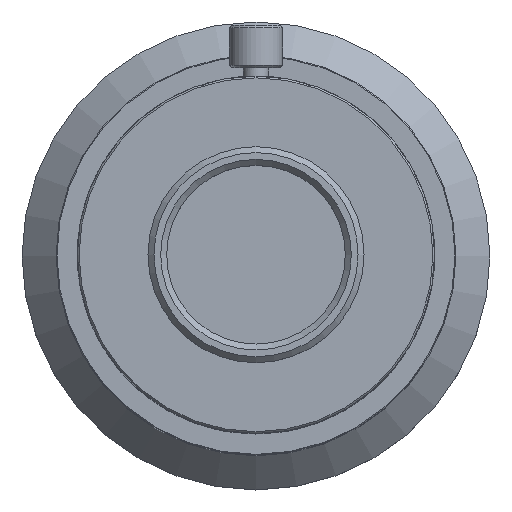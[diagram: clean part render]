
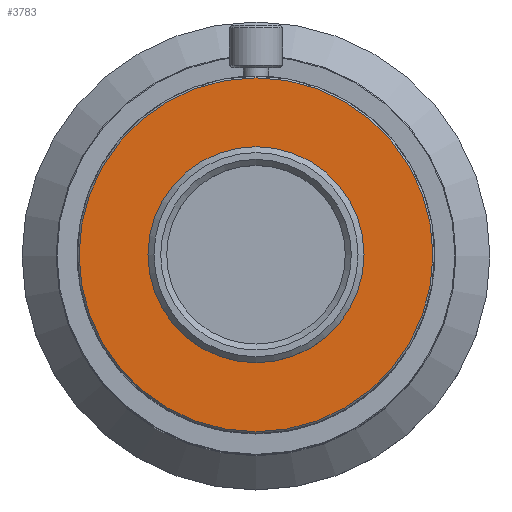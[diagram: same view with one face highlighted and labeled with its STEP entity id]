
A CAD part, top view. The second image highlights one B-rep face of the part: STEP entity #3783.
In plain terms, the highlighted planar face has unit normal (0, 0, 1).
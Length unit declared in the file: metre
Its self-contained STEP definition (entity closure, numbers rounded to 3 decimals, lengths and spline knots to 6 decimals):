
#3783=ADVANCED_FACE('0:29159',(#7881,#7882),#7883,.T.);
#7881=FACE_BOUND('',#12256,.T.);
#7882=FACE_OUTER_BOUND('',#12257,.T.);
#7883=PLANE('',#12258);
#12256=EDGE_LOOP('',(#22862));
#12257=EDGE_LOOP('',(#22863));
#12258=AXIS2_PLACEMENT_3D('',#22864,#22865,#22866);
#22862=ORIENTED_EDGE('',*,*,#27618,.F.);
#22863=ORIENTED_EDGE('',*,*,#27620,.T.);
#22864=CARTESIAN_POINT('',(0.0,0.,0.221));
#22865=DIRECTION('',(0.0,0.,1.0));
#22866=DIRECTION('',(-1.0,0.0,0.0));
#27618=EDGE_CURVE('0:37247',#33438,#33438,#33439,.T.);
#27620=EDGE_CURVE('0:37244',#33441,#33441,#33442,.T.);
#33438=VERTEX_POINT('',#44684);
#33439=CIRCLE('',#44685,0.0121);
#33441=VERTEX_POINT('',#44687);
#33442=CIRCLE('',#44688,0.0208);
#44684=CARTESIAN_POINT('',(0.0121,0.,0.221));
#44685=AXIS2_PLACEMENT_3D('',#49277,#49278,#49279);
#44687=CARTESIAN_POINT('',(0.0,-0.0208,0.221));
#44688=AXIS2_PLACEMENT_3D('',#49280,#49281,#49282);
#49277=CARTESIAN_POINT('',(0.0,0.,0.221));
#49278=DIRECTION('',(0.0,0.,1.0));
#49279=DIRECTION('',(1.0,0.0,-0.0));
#49280=CARTESIAN_POINT('',(0.0,0.,0.221));
#49281=DIRECTION('',(0.0,0.,1.0));
#49282=DIRECTION('',(0.0,-1.0,0.));
